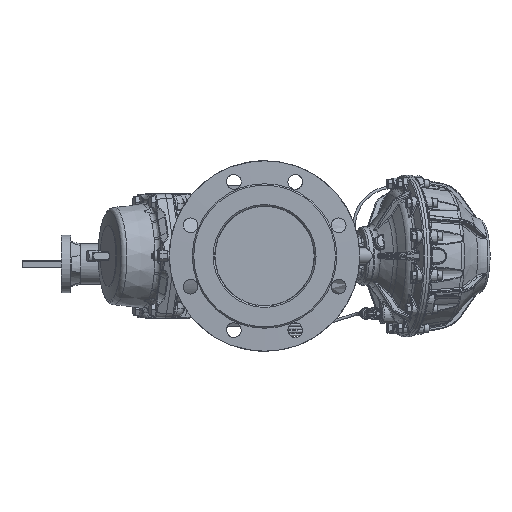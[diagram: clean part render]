
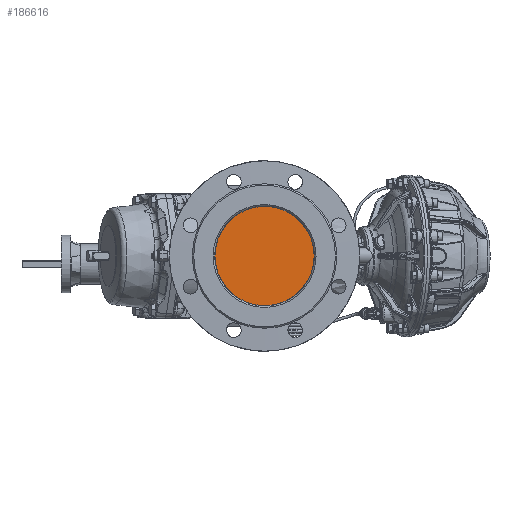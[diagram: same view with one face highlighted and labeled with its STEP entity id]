
A CAD part, left-side view. The second image highlights one B-rep face of the part: STEP entity #186616.
In plain terms, the highlighted planar face has unit normal (-1, 0, 0).
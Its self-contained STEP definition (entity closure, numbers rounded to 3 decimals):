
#11898 = EDGE_LOOP ( 'NONE', ( #39570 ) ) ;
#21939 = AXIS2_PLACEMENT_3D ( 'NONE', #64811, #194879, #98949 ) ;
#27650 = DIRECTION ( 'NONE',  ( -1., 0., 0. ) ) ;
#39570 = ORIENTED_EDGE ( 'NONE', *, *, #80095, .T. ) ;
#64811 = CARTESIAN_POINT ( 'NONE',  ( -222., 75.485, 500000. ) ) ;
#70179 = CARTESIAN_POINT ( 'NONE',  ( -222., 74.219, 0. ) ) ;
#80095 = EDGE_CURVE ( 'NONE', #204170, #204170, #84618, .T. ) ;
#82938 = PLANE ( 'NONE',  #21939 ) ;
#84618 = CIRCLE ( 'NONE', #175146, 74.219 ) ;
#98949 = DIRECTION ( 'NONE',  ( 0., 1., 0. ) ) ;
#123085 = CARTESIAN_POINT ( 'NONE',  ( -222., 0., 0. ) ) ;
#139211 = DIRECTION ( 'NONE',  ( 0., 1., 0. ) ) ;
#144372 = FACE_OUTER_BOUND ( 'NONE', #11898, .T. ) ;
#175146 = AXIS2_PLACEMENT_3D ( 'NONE', #123085, #27650, #139211 ) ;
#186616 = ADVANCED_FACE ( 'NONE', ( #144372 ), #82938, .F. ) ;
#194879 = DIRECTION ( 'NONE',  ( 1., 0., 0. ) ) ;
#204170 = VERTEX_POINT ( 'NONE', #70179 ) ;
